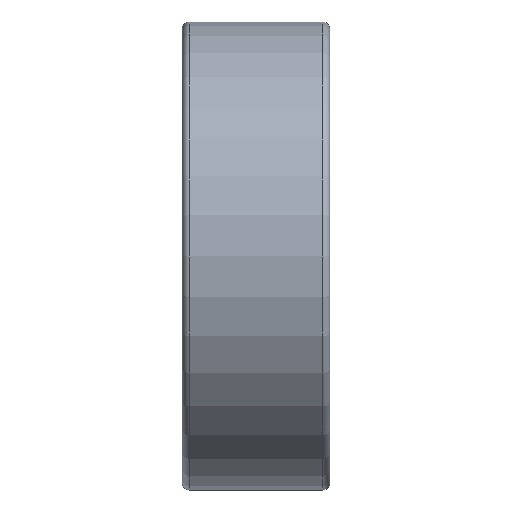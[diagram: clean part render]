
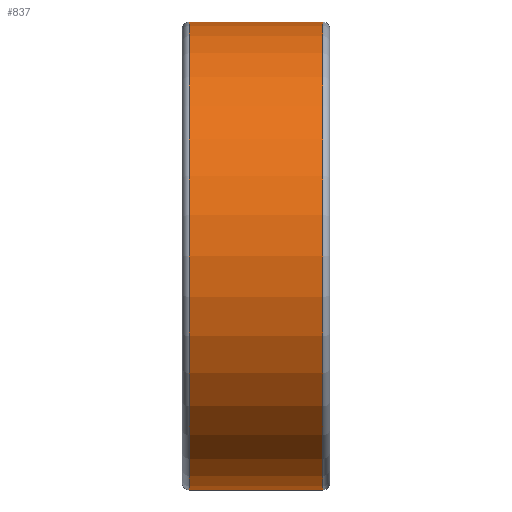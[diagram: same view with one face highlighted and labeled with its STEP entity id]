
A CAD part, front view. The second image highlights one B-rep face of the part: STEP entity #837.
In plain terms, the highlighted cylindrical face has radius 9.5 mm (diameter 19 mm), a full revolution.
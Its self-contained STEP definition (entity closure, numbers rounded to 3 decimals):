
#144=CYLINDRICAL_SURFACE($,#975,9.5);
#159=FACE_BOUND($,#272,.T.);
#210=FACE_OUTER_BOUND($,#271,.T.);
#271=EDGE_LOOP($,(#773));
#272=EDGE_LOOP($,(#774));
#358=CIRCLE($,#973,9.5);
#360=CIRCLE($,#976,9.5);
#440=VERTEX_POINT($,#2198);
#442=VERTEX_POINT($,#2203);
#553=EDGE_CURVE($,#440,#440,#358,.T.);
#555=EDGE_CURVE($,#442,#442,#360,.T.);
#773=ORIENTED_EDGE($,*,*,#555,.F.);
#774=ORIENTED_EDGE($,*,*,#553,.T.);
#837=ADVANCED_FACE($,(#210,#159),#144,.T.);
#973=AXIS2_PLACEMENT_3D($,#2199,#1243,#1244);
#975=AXIS2_PLACEMENT_3D($,#2202,#1247,#1248);
#976=AXIS2_PLACEMENT_3D($,#2204,#1249,#1250);
#1243=DIRECTION('center_axis',(1.,0.,0.));
#1244=DIRECTION('ref_axis',(0.,0.,-1.));
#1247=DIRECTION('center_axis',(1.,0.,0.));
#1248=DIRECTION('ref_axis',(0.,1.,0.));
#1249=DIRECTION('center_axis',(1.,0.,0.));
#1250=DIRECTION('ref_axis',(0.,0.,-1.));
#2198=CARTESIAN_POINT('',(-2.7,9.5,0.));
#2199=CARTESIAN_POINT('Origin',(-2.7,0.,0.));
#2202=CARTESIAN_POINT('Origin',(0.,0.,0.));
#2203=CARTESIAN_POINT('',(2.7,9.5,0.));
#2204=CARTESIAN_POINT('Origin',(2.7,0.,0.));
